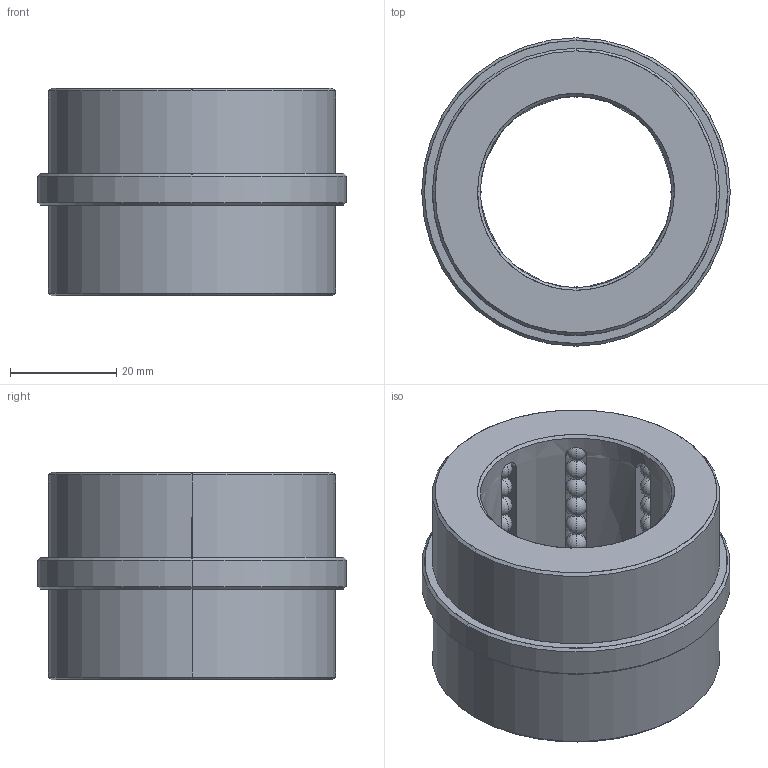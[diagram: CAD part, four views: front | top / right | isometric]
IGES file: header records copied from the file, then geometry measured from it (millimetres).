
Start section: START RECORD GO HERE.
Global section: file name: B8453622.igs; native system: DASSAULT SYSTEMES CATIA V5 R20 - www.3ds.com; preprocessor: CATIA Version 5 Release 20 ; author: Utente; organization: NB04-ASUS; date: 20200419.201449; units: millimetre
Bounding box: 58 x 58 x 39 mm (x, y, z)
Surface area: 19570.9 mm2 (no closed solid volume)
Topology: 0 solids, 0 shells, 332 faces, 1396 edges, 884 vertices
Faces by surface type: revolution 304, plane 28
